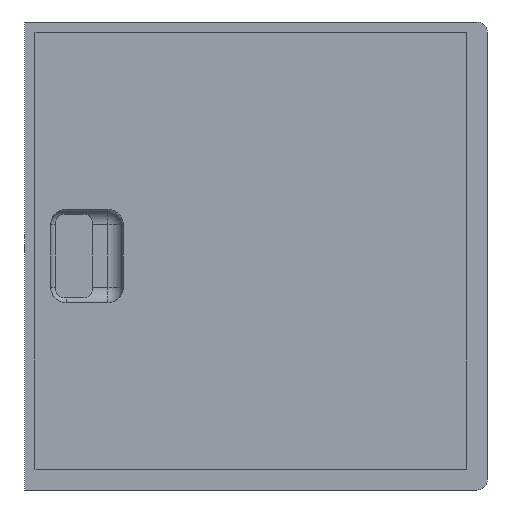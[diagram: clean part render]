
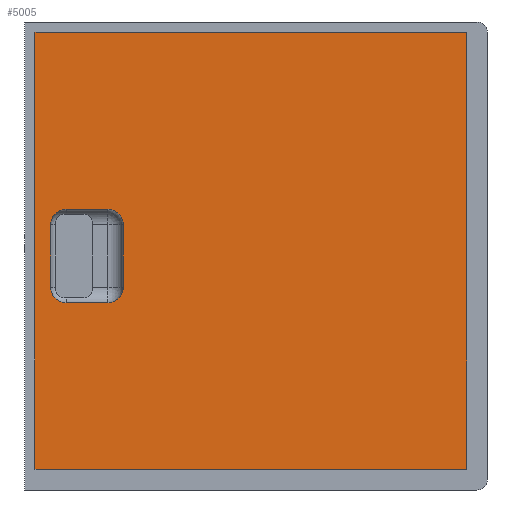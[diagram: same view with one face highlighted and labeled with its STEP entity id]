
A CAD part, left-side view. The second image highlights one B-rep face of the part: STEP entity #5005.
In plain terms, the highlighted planar face has unit normal (-1, 0, 0).
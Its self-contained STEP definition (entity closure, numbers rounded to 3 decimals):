
#32=FACE_BOUND('',#609,.T.);
#33=FACE_BOUND('',#610,.T.);
#609=EDGE_LOOP('',(#3868,#3869,#3870,#3871,#3872,#3873,#3874,#3875));
#610=EDGE_LOOP('',(#3876,#3877,#3878,#3879));
#792=LINE('',#6828,#1386);
#794=LINE('',#6839,#1388);
#800=LINE('',#6856,#1394);
#801=LINE('',#6863,#1395);
#1047=LINE('',#7789,#1641);
#1051=LINE('',#7796,#1645);
#1054=LINE('',#7802,#1648);
#1056=LINE('',#7805,#1650);
#1386=VECTOR('',#5546,60.);
#1388=VECTOR('',#5560,40.);
#1394=VECTOR('',#5574,60.);
#1395=VECTOR('',#5583,40.);
#1641=VECTOR('',#5997,415.);
#1645=VECTOR('',#6003,420.);
#1648=VECTOR('',#6008,415.);
#1650=VECTOR('',#6012,420.);
#1977=CIRCLE('',#5188,15.);
#1981=CIRCLE('',#5196,15.);
#1984=CIRCLE('',#5201,15.);
#1985=CIRCLE('',#5203,15.);
#2063=VERTEX_POINT('',#6825);
#2064=VERTEX_POINT('',#6827);
#2065=VERTEX_POINT('',#6831);
#2067=VERTEX_POINT('',#6837);
#2072=VERTEX_POINT('',#6850);
#2074=VERTEX_POINT('',#6854);
#2075=VERTEX_POINT('',#6860);
#2076=VERTEX_POINT('',#6862);
#2303=VERTEX_POINT('',#7786);
#2304=VERTEX_POINT('',#7788);
#2306=VERTEX_POINT('',#7794);
#2308=VERTEX_POINT('',#7800);
#2554=EDGE_CURVE('',#2064,#2063,#792,.T.);
#2557=EDGE_CURVE('',#2063,#2065,#1977,.T.);
#2560=EDGE_CURVE('',#2065,#2067,#794,.T.);
#2568=EDGE_CURVE('',#2072,#2074,#800,.T.);
#2569=EDGE_CURVE('',#2067,#2072,#1981,.T.);
#2571=EDGE_CURVE('',#2076,#2075,#801,.T.);
#2574=EDGE_CURVE('',#2074,#2076,#1984,.T.);
#2575=EDGE_CURVE('',#2075,#2064,#1985,.T.);
#2877=EDGE_CURVE('',#2303,#2304,#1047,.T.);
#2881=EDGE_CURVE('',#2306,#2303,#1051,.T.);
#2884=EDGE_CURVE('',#2308,#2306,#1054,.T.);
#2886=EDGE_CURVE('',#2304,#2308,#1056,.T.);
#3868=ORIENTED_EDGE('',*,*,#2575,.T.);
#3869=ORIENTED_EDGE('',*,*,#2554,.T.);
#3870=ORIENTED_EDGE('',*,*,#2557,.T.);
#3871=ORIENTED_EDGE('',*,*,#2560,.T.);
#3872=ORIENTED_EDGE('',*,*,#2569,.T.);
#3873=ORIENTED_EDGE('',*,*,#2568,.T.);
#3874=ORIENTED_EDGE('',*,*,#2574,.T.);
#3875=ORIENTED_EDGE('',*,*,#2571,.T.);
#3876=ORIENTED_EDGE('',*,*,#2886,.F.);
#3877=ORIENTED_EDGE('',*,*,#2877,.F.);
#3878=ORIENTED_EDGE('',*,*,#2881,.F.);
#3879=ORIENTED_EDGE('',*,*,#2884,.F.);
#4758=PLANE('',#5286);
#5005=ADVANCED_FACE('',(#32,#33),#4758,.F.);
#5188=AXIS2_PLACEMENT_3D('',#6833,#5553,#5554);
#5196=AXIS2_PLACEMENT_3D('',#6858,#5577,#5578);
#5201=AXIS2_PLACEMENT_3D('',#6867,#5589,#5590);
#5203=AXIS2_PLACEMENT_3D('',#6869,#5593,#5594);
#5286=AXIS2_PLACEMENT_3D('',#7806,#6013,#6014);
#5546=DIRECTION('',(0.,0.,1.));
#5553=DIRECTION('center_axis',(1.,0.,0.));
#5554=DIRECTION('ref_axis',(0.,0.,1.));
#5560=DIRECTION('',(0.,-1.,0.));
#5574=DIRECTION('',(0.,0.,-1.));
#5577=DIRECTION('center_axis',(1.,0.,0.));
#5578=DIRECTION('ref_axis',(0.,-1.,0.));
#5583=DIRECTION('',(0.,1.,0.));
#5589=DIRECTION('center_axis',(1.,0.,0.));
#5590=DIRECTION('ref_axis',(0.,0.,-1.));
#5593=DIRECTION('center_axis',(1.,0.,0.));
#5594=DIRECTION('ref_axis',(0.,1.,0.));
#5997=DIRECTION('',(0.,-1.,0.));
#6003=DIRECTION('',(0.,0.,1.));
#6008=DIRECTION('',(0.,1.,0.));
#6012=DIRECTION('',(0.,0.,-1.));
#6013=DIRECTION('center_axis',(1.,0.,0.));
#6014=DIRECTION('ref_axis',(0.,0.,-1.));
#6825=CARTESIAN_POINT('',(-89.5,420.,255.));
#6827=CARTESIAN_POINT('',(-89.5,420.,195.));
#6828=CARTESIAN_POINT('',(-89.5,420.,212.5));
#6831=CARTESIAN_POINT('',(-89.5,405.,270.));
#6833=CARTESIAN_POINT('Origin',(-89.5,405.,255.));
#6837=CARTESIAN_POINT('',(-89.5,365.,270.));
#6839=CARTESIAN_POINT('',(-89.5,316.25,270.));
#6850=CARTESIAN_POINT('',(-89.5,350.,255.));
#6854=CARTESIAN_POINT('',(-89.5,350.,195.));
#6856=CARTESIAN_POINT('',(-89.5,350.,242.5));
#6858=CARTESIAN_POINT('Origin',(-89.5,365.,255.));
#6860=CARTESIAN_POINT('',(-89.5,405.,180.));
#6862=CARTESIAN_POINT('',(-89.5,365.,180.));
#6863=CARTESIAN_POINT('',(-89.5,296.25,180.));
#6867=CARTESIAN_POINT('Origin',(-89.5,365.,195.));
#6869=CARTESIAN_POINT('Origin',(-89.5,405.,195.));
#7786=CARTESIAN_POINT('',(-89.5,435.,440.));
#7788=CARTESIAN_POINT('',(-89.5,20.,440.));
#7789=CARTESIAN_POINT('',(-89.5,20.,440.));
#7794=CARTESIAN_POINT('',(-89.5,435.,20.));
#7796=CARTESIAN_POINT('',(-89.5,435.,440.));
#7800=CARTESIAN_POINT('',(-89.5,20.,20.));
#7802=CARTESIAN_POINT('',(-89.5,435.,20.));
#7805=CARTESIAN_POINT('',(-89.5,20.,20.));
#7806=CARTESIAN_POINT('Origin',(-89.5,227.5,230.));
